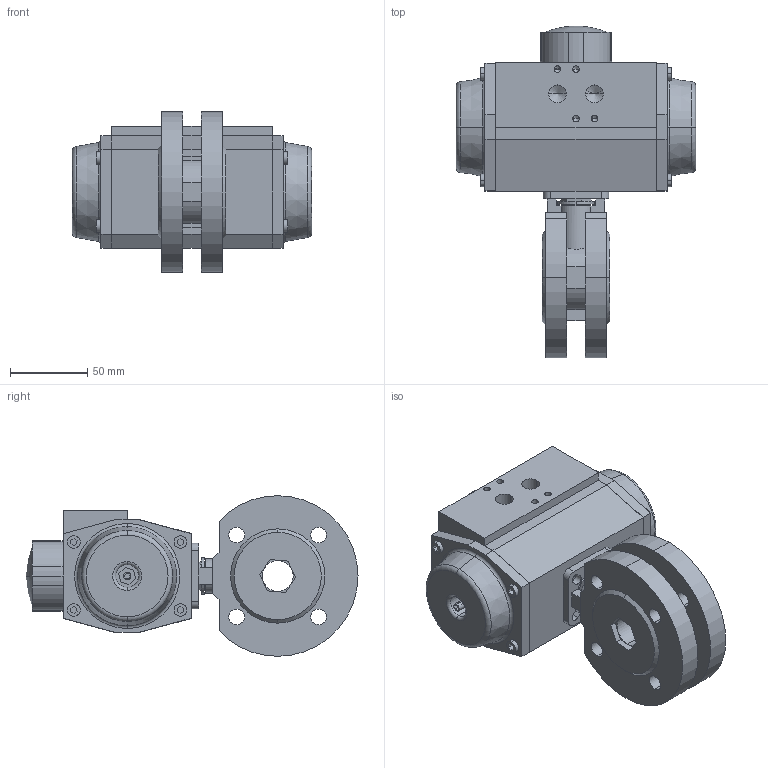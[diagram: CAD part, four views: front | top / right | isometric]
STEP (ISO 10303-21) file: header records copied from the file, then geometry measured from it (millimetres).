
FILE_DESCRIPTION (( 'STEP AP214' ), '1' );
FILE_NAME ('S15D DN20+ AP2.STEP', '2012-04-24T08:19:07', ( 'Jan' ), ( '' ), 'SwSTEP 2.0', 'SolidWorks 2011', '' );
FILE_SCHEMA (( 'AUTOMOTIVE_DESIGN' ));
Length unit declared in the file: millimetre
Products named in the file (3): S15D DN20+ AP2; AP2_Default<As Machined>; S15D KK DN20 PN16
Assembly tree (2 placements, depth 2):
  S15D DN20+ AP2
    S15D KK DN20 PN16
    AP2_Default<As Machined>
Bounding box: 155 x 214.99 x 104 mm (x, y, z)
Volume: 1092203.1 mm3; surface area: 123642.7 mm2
Topology: 9 solids, 9 shells, 398 faces, 1005 edges, 643 vertices
Faces by surface type: plane 230, cylinder 118, cone 36, torus 12, sphere 2
Entity records: 13136 total; most frequent: DIRECTION 2065, CARTESIAN_POINT 2058, ORIENTED_EDGE 1954, EDGE_CURVE 977, LINE 689, VECTOR 689, AXIS2_PLACEMENT_3D 688, VERTEX_POINT 643
